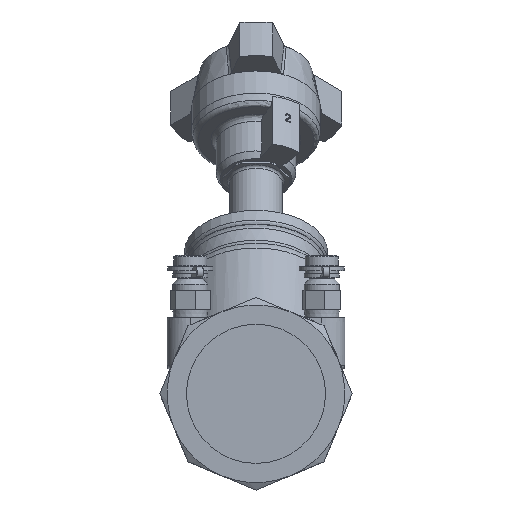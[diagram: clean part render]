
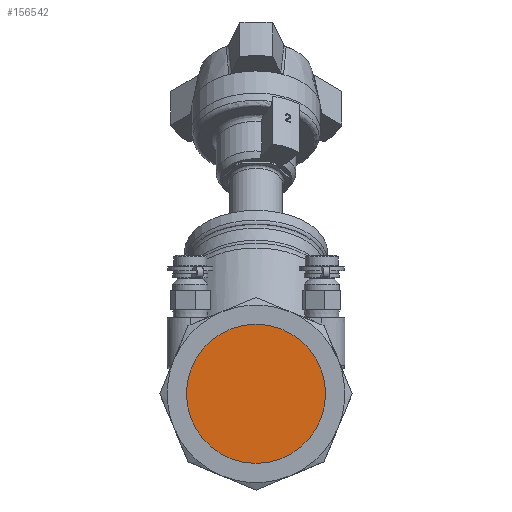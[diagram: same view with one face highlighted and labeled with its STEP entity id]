
A CAD part, left-side view. The second image highlights one B-rep face of the part: STEP entity #156542.
In plain terms, the highlighted free-form (B-spline) face has degree [1, 1] with [2, 2] control points.
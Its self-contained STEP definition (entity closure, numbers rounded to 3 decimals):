
#156522=CARTESIAN_POINT('',(-130.1,-27.,0.));
#156523=VERTEX_POINT('',#156522);
#156524=CARTESIAN_POINT('',(-130.1,0.,0.));
#156525=DIRECTION('',(-1.0,0.0,0.0));
#156526=DIRECTION('',(0.0,-1.0,0.0));
#156527=AXIS2_PLACEMENT_3D('',#156524,#156525,#156526);
#156528=CIRCLE('',#156527,27.0);
#156529=EDGE_CURVE('',#156523,#156523,#156528,.T.);
#156534=CARTESIAN_POINT('',(-130.1,27.,27.));
#156535=CARTESIAN_POINT('',(-130.1,-27.,27.));
#156536=CARTESIAN_POINT('',(-130.1,27.,-27.));
#156537=CARTESIAN_POINT('',(-130.1,-27.,-27.));
#156538=B_SPLINE_SURFACE_WITH_KNOTS('',1,1,((#156534,#156536),(#156535,#156537)),.UNSPECIFIED.,.F.,.F.,.U.,(2,2),(2,2),(0.0,54.0),(0.0,54.0),.UNSPECIFIED.);
#156539=ORIENTED_EDGE('',*,*,#156529,.T.);
#156540=EDGE_LOOP('',(#156539));
#156541=FACE_OUTER_BOUND('',#156540,.T.);
#156542=ADVANCED_FACE('',(#156541),#156538,.F.);
